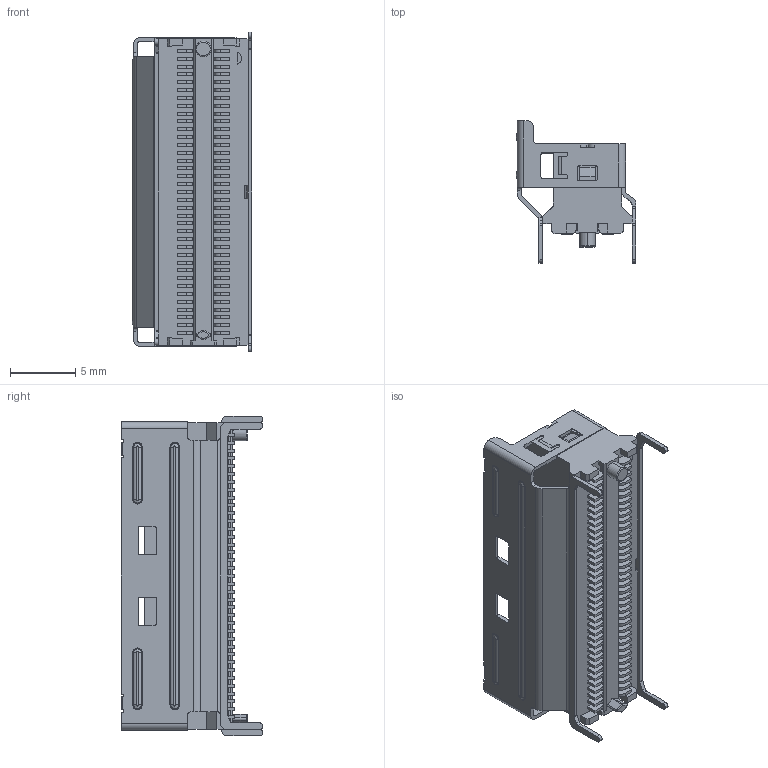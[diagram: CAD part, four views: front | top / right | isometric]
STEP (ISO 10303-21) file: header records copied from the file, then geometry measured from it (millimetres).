
FILE_DESCRIPTION((''),'2;1');
FILE_NAME('PRT0001','2026-07-13T15:11:54',('31000862'),(''),'CREO PARAMETRIC BY PTC INC, 2022244','CREO PARAMETRIC BY PTC INC, 2022244','');
FILE_SCHEMA(('CONFIG_CONTROL_DESIGN'));
Products named in the file (1): PRT0001
Bounding box: 9.18 x 10.85 x 24.5 mm (x, y, z)
Volume: 819.7 mm3; surface area: 1774.4 mm2
Topology: 1 solids, 1 shells, 2320 faces, 6152 edges, 3992 vertices
Faces by surface type: plane 1652, cylinder 417, bspline 164, extrusion 67, torus 14, cone 6
Entity records: 77280 total; most frequent: CARTESIAN_POINT 20333, ORIENTED_EDGE 12304, DIRECTION 10746, EDGE_CURVE 6152, VECTOR 4878, LINE 4811, VERTEX_POINT 3992, AXIS2_PLACEMENT_3D 2934
